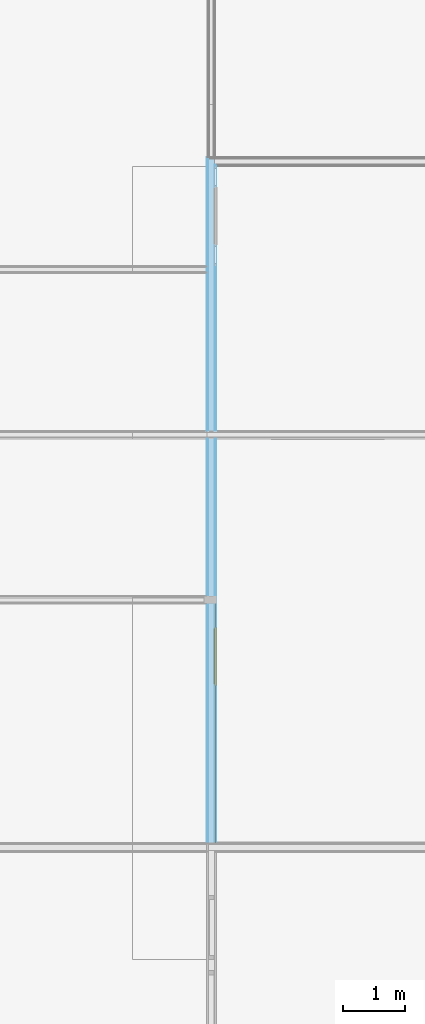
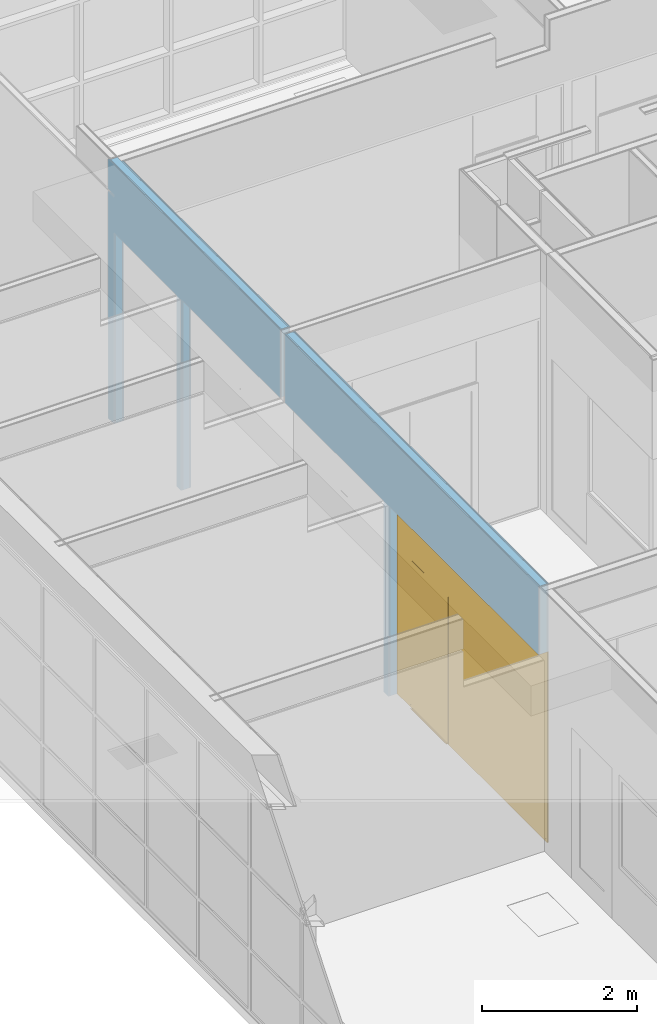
# One storey, part 40 of 109: 1 door, 4 openings, 1 element without a shape of its own, plus 5 elements that do not belong to this part.
"""IFC2X3 building model written with IfcOpenShell, lengths in millimetres."""

from ifc_helpers import new_model, entity, si_unit, converted_unit, derived_unit, money_unit, direction, frame, origin_with_axes, place, context, subcontext, project, spatial, open_shell, faceted_brep, surface_model, material, type_object, element, fill, aggregate, save


model = new_model("IFC2X3")

# Units and contexts
model_context = context("Model", 3, precision=0.01, world=origin_with_axes(), true_north=direction((0.0, 1.0)))
body_context = subcontext(model_context, "Body", "Model", "MODEL_VIEW")
ifc_project = project(units=[si_unit("LENGTHUNIT", "METRE", prefix="MILLI"), si_unit("AREAUNIT", "SQUARE_METRE"), si_unit("VOLUMEUNIT", "CUBIC_METRE"), converted_unit("PLANEANGLEUNIT", "DEGREE", entity("IfcPlaneAngleMeasure", 0.0174532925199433), si_unit("PLANEANGLEUNIT", "RADIAN"), dimensions=[0, 0, 0, 0, 0, 0, 0]), money_unit("EUR"), converted_unit("TIMEUNIT", "Year", entity("IfcTimeMeasure", 31557600.0), si_unit("TIMEUNIT", "SECOND"), dimensions=[0, 0, 1, 0, 0, 0, 0]), si_unit("MASSUNIT", "GRAM", prefix="KILO"), si_unit("THERMODYNAMICTEMPERATUREUNIT", "DEGREE_CELSIUS"), si_unit("LUMINOUSINTENSITYUNIT", "LUMEN"), si_unit("ENERGYUNIT", "JOULE", prefix="MEGA"), derived_unit("THERMALCONDUCTANCEUNIT", [(si_unit("POWERUNIT", "WATT"), 1), (si_unit("LENGTHUNIT", "METRE"), -1), (si_unit("THERMODYNAMICTEMPERATUREUNIT", "KELVIN"), -1)]), derived_unit("SPECIFICHEATCAPACITYUNIT", [(si_unit("ENERGYUNIT", "JOULE"), 1), (si_unit("MASSUNIT", "GRAM", prefix="KILO"), -1), (si_unit("THERMODYNAMICTEMPERATUREUNIT", "KELVIN"), -1)]), derived_unit("MASSDENSITYUNIT", [(si_unit("MASSUNIT", "GRAM", prefix="KILO"), 1), (si_unit("VOLUMEUNIT", "CUBIC_METRE"), -1)])], contexts=[model_context])

# Site, building, storey
site_placement = place(None, origin_with_axes())
site = spatial("IfcSite", under=ifc_project, at=site_placement, Name="<site naam>", CompositionType="ELEMENT")
building_placement = place(site_placement, origin_with_axes())
building = spatial("IfcBuilding", under=site, at=building_placement, Name="<Naam gebouw>", CompositionType="ELEMENT")
storey_placement = place(building_placement, origin_with_axes())
storey = spatial("IfcBuildingStorey", under=building, at=storey_placement, Name="00 Begane grond", CompositionType="ELEMENT", Elevation=0.0)

# Door
door_style = type_object("IfcDoorStyle", Name="D1 bl zl2 27", ConstructionType="NOTDEFINED", OperationType="USERDEFINED", ParameterTakesPrecedence=False, Sizeable=False)
wall_placement = place(storey_placement, frame((-3999.999999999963, 8075.000000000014, 0.0), z_axis=(0.0, 0.0, 1.0), x_axis=(0.0, 1.0, 0.0)))
opening_3_placement = place(wall_placement, frame((1931.25, 0.0, 0.0), z_axis=(0.0, 0.0, 1.0), x_axis=(1.0, 0.0, 0.0)))
door_placement = place(opening_3_placement, frame((1931.25, 0.0, 0.0), z_axis=(0.0, 0.0, 1.0), x_axis=(-1.0, 0.0, 0.0)))
door = element("IfcDoor", 1, at=door_placement, inside=storey, type_object=door_style, Name="22_BI-F-01_305", ObjectType="DOOR", OverallHeight=3000.0, OverallWidth=3862.5, context=body_context, shape_type="SurfaceModel", body=[
    faceted_brep([(1317.0, 35.00000000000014, 0.0), (1300.000000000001, 35.00000000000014, 0.0), (1300.000000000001, 35.00000000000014, 12.0), (1317.0, 35.00000000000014, 12.0), (383.0000000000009, 35.00000000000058, 0.0), (400.0000000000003, 35.00000000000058, 0.0), (400.0000000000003, 55.0000000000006, 0.0), (1300.000000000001, 55.00000000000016, 0.0), (1300.000000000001, 55.00000000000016, 12.0), (400.0000000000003, 55.0000000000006, 12.0), (400.0000000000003, 35.00000000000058, 12.0), (383.0000000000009, 35.00000000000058, 12.0)], [[[0, 1, 2, 3]], [[0, 4, 5, 6, 7, 1]], [[1, 7, 8, 2]], [[3, 2, 8, 9, 10, 11]], [[4, 0, 3, 11]], [[5, 4, 11, 10]], [[6, 5, 10, 9]], [[7, 6, 9, 8]]]),
    faceted_brep([(3862.500000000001, 74.99999999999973, 0.0), (3862.500000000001, 54.99999999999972, 0.0), (3829.5, 54.99999999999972, 0.0), (3829.5, 74.99999999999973, 0.0), (3862.500000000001, 74.99999999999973, 2967.0), (3862.500000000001, 54.99999999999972, 2967.0), (3829.5, 54.99999999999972, 2967.0), (3829.5, 54.99999999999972, 33.0), (3829.5, 74.99999999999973, 33.0), (3829.5, 74.99999999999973, 2967.0)], [[[0, 1, 2, 3]], [[4, 5, 1, 0]], [[1, 5, 6, 7, 2]], [[3, 2, 7, 8]], [[0, 3, 8, 9, 4]], [[9, 6, 5, 4]], [[8, 7, 6, 9]]]),
    faceted_brep([(1317.0, 55.00000000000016, 0.0), (1342.0, 55.00000000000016, 0.0), (1342.0, 55.00000000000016, 32.99999999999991), (1342.0, 55.00000000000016, 2967.0), (1300.000000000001, 55.00000000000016, 2967.0), (1300.000000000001, 55.00000000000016, 2333.0), (1300.000000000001, 55.00000000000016, 2317.0), (1317.0, 55.00000000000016, 2317.0), (1317.0, 75.00000000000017, 0.0), (1342.0, 75.00000000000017, 0.0), (1342.0, 75.00000000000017, 32.99999999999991), (1342.0, 75.00000000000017, 2967.0), (1300.000000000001, 75.00000000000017, 2967.0), (1300.000000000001, 75.00000000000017, 2333.0), (1300.000000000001, 75.00000000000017, 2317.0), (1317.0, 75.00000000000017, 2317.0)], [[[0, 1, 2, 3, 4, 5, 6, 7]], [[8, 9, 1, 0]], [[9, 10, 2, 1]], [[10, 11, 3, 2]], [[11, 12, 4, 3]], [[12, 13, 5, 4]], [[6, 5, 13, 14]], [[14, 15, 7, 6]], [[7, 15, 8, 0]], [[15, 14, 13, 12, 11, 10, 9, 8]]]),
    faceted_brep([(3829.5, 74.99999999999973, 33.0), (3829.5, 54.99999999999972, 33.0), (3829.5, 54.99999999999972, 0.0), (3829.5, 74.99999999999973, 0.0), (1342.0, 75.00000000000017, 33.0), (1342.0, 55.00000000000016, 33.0), (1342.0, 55.00000000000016, 0.0), (1342.0, 75.00000000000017, 0.0)], [[[0, 1, 2, 3]], [[4, 5, 1, 0]], [[1, 5, 6, 2]], [[3, 2, 6, 7]], [[0, 3, 7, 4]], [[7, 6, 5, 4]]]),
    faceted_brep([(0.0, 75.00000000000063, 0.0), (0.0, 55.0000000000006, 0.0), (0.0, 55.00000000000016, 2967.0), (0.0, 75.00000000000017, 2967.0), (33.00000000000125, 75.00000000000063, 0.0), (33.00000000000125, 55.0000000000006, 0.0), (33.00000000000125, 55.0000000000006, 33.0), (33.00000000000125, 55.00000000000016, 2967.0), (33.00000000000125, 75.00000000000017, 2967.0), (33.00000000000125, 75.00000000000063, 33.0)], [[[0, 1, 2, 3]], [[4, 5, 1, 0]], [[1, 5, 6, 7, 2]], [[3, 2, 7, 8]], [[0, 3, 8, 9, 4]], [[9, 6, 5, 4]], [[8, 7, 6, 9]]]),
    faceted_brep([(383.0000000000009, 55.00000000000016, 2317.0), (400.0000000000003, 55.00000000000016, 2317.0), (400.0000000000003, 55.00000000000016, 2333.0), (400.0000000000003, 55.00000000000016, 2967.0), (358.0000000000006, 55.00000000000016, 2967.0), (358.0000000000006, 55.0000000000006, 32.99999999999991), (358.0000000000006, 55.0000000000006, 0.0), (383.0000000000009, 55.0000000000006, 0.0), (383.0000000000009, 75.00000000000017, 2317.0), (400.0000000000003, 75.00000000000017, 2317.0), (400.0000000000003, 75.00000000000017, 2333.0), (400.0000000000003, 75.00000000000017, 2967.0), (358.0000000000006, 75.00000000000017, 2967.0), (358.0000000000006, 75.00000000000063, 32.99999999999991), (358.0000000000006, 75.00000000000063, 0.0), (383.0000000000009, 75.00000000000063, 0.0)], [[[0, 1, 2, 3, 4, 5, 6, 7]], [[0, 8, 9, 1]], [[9, 10, 2, 1]], [[10, 11, 3, 2]], [[11, 12, 4, 3]], [[12, 13, 5, 4]], [[13, 14, 6, 5]], [[7, 6, 14, 15]], [[7, 15, 8, 0]], [[8, 15, 14, 13, 12, 11, 10, 9]]]),
    faceted_brep([(358.0000000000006, 75.00000000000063, 33.0), (358.0000000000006, 55.0000000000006, 33.0), (358.0000000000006, 55.0000000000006, 0.0), (358.0000000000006, 75.00000000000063, 0.0), (33.00000000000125, 75.00000000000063, 33.0), (33.00000000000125, 55.0000000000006, 33.0), (33.00000000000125, 55.0000000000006, 0.0), (33.00000000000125, 75.00000000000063, 0.0)], [[[0, 1, 2, 3]], [[4, 5, 1, 0]], [[1, 5, 6, 2]], [[3, 2, 6, 7]], [[0, 3, 7, 4]], [[7, 6, 5, 4]]]),
    faceted_brep([(3862.500000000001, 74.99999999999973, 3000.0), (3862.500000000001, 54.99999999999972, 3000.0), (3862.500000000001, 54.99999999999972, 2967.0), (3862.500000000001, 74.99999999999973, 2967.0), (0.0, 75.00000000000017, 3000.0), (0.0, 55.00000000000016, 3000.0), (0.0, 55.00000000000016, 2967.0), (33.00000000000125, 55.00000000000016, 2967.0), (358.0000000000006, 55.00000000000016, 2967.0), (400.0000000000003, 55.00000000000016, 2967.0), (1300.000000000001, 55.00000000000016, 2967.0), (1342.0, 55.00000000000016, 2967.0), (3829.5, 54.99999999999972, 2967.0), (3829.5, 74.99999999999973, 2967.0), (1342.0, 75.00000000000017, 2967.0), (1300.000000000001, 75.00000000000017, 2967.0), (400.0000000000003, 75.00000000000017, 2967.0), (358.0000000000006, 75.00000000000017, 2967.0), (33.00000000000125, 75.00000000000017, 2967.0), (0.0, 75.00000000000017, 2967.0)], [[[0, 1, 2, 3]], [[4, 5, 1, 0]], [[1, 5, 6, 7, 8, 9, 10, 11, 12, 2]], [[3, 2, 12, 13]], [[0, 3, 13, 14, 15, 16, 17, 18, 19, 4]], [[19, 6, 5, 4]], [[18, 7, 6, 19]], [[17, 8, 7, 18]], [[16, 9, 8, 17]], [[15, 10, 9, 16]], [[14, 11, 10, 15]], [[13, 12, 11, 14]]]),
    faceted_brep([(1300.000000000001, 55.00000000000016, 2317.0), (1300.000000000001, 55.00000000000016, 2333.0), (400.0000000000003, 55.00000000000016, 2333.0), (400.0000000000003, 55.00000000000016, 2317.0), (1300.000000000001, 75.00000000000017, 2317.0), (1300.000000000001, 75.00000000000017, 2333.0), (400.0000000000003, 75.00000000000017, 2333.0), (400.0000000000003, 75.00000000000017, 2317.0)], [[[0, 1, 2, 3]], [[4, 5, 1, 0]], [[5, 6, 2, 1]], [[3, 2, 6, 7]], [[7, 4, 0, 3]], [[7, 6, 5, 4]]]),
    faceted_brep([(383.0000000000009, 93.00000000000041, 0.0), (1317.0, 93.00000000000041, 0.0), (1317.0, 53.00000000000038, 0.0), (383.0000000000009, 53.00000000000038, 0.0), (383.0000000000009, 92.99999999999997, 2317.0), (1317.0, 92.99999999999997, 2317.0), (1317.0, 52.99999999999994, 2317.0), (383.0000000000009, 53.00000000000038, 2317.0)], [[[0, 1, 2, 3]], [[0, 4, 5, 1]], [[1, 5, 6, 2]], [[3, 2, 6, 7]], [[4, 0, 3, 7]], [[5, 4, 7, 6]]]),
    surface_model("IfcShellBasedSurfaceModel", [(1300.000000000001, 48.99999999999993, 2333.0), (1300.000000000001, 48.99999999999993, 2967.0), (400.0000000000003, 49.00000000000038, 2967.0), (400.0000000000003, 49.00000000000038, 2333.0)], [open_shell([[[0, 1, 2, 3]]])]),
    surface_model("IfcShellBasedSurfaceModel", [(1300.000000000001, 60.99999999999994, 2333.0), (400.0000000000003, 61.00000000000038, 2333.0), (400.0000000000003, 61.00000000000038, 2967.0), (1300.000000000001, 60.99999999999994, 2967.0)], [open_shell([[[0, 1, 2, 3]]])]),
    surface_model("IfcShellBasedSurfaceModel", [(3829.5, 48.99999999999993, 33.0), (3829.5, 48.99999999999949, 2967.0), (1342.0, 48.99999999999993, 2967.0), (1342.0, 49.00000000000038, 33.0)], [open_shell([[[0, 1, 2, 3]]])]),
    surface_model("IfcShellBasedSurfaceModel", [(3829.5, 60.99999999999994, 33.0), (1342.0, 61.00000000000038, 33.0), (1342.0, 60.99999999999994, 2967.0), (3829.5, 60.9999999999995, 2967.0)], [open_shell([[[0, 1, 2, 3]]])]),
    surface_model("IfcShellBasedSurfaceModel", [(358.0000000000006, 49.00000000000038, 33.0), (358.0000000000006, 49.00000000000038, 2967.0), (33.00000000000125, 49.00000000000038, 2967.0), (33.00000000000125, 49.00000000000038, 33.0)], [open_shell([[[0, 1, 2, 3]]])]),
    surface_model("IfcShellBasedSurfaceModel", [(358.0000000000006, 61.00000000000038, 33.0), (33.00000000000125, 61.00000000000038, 33.0), (33.00000000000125, 61.00000000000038, 2967.0), (358.0000000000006, 61.00000000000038, 2967.0)], [open_shell([[[0, 1, 2, 3]]])]),
])

# Wall, openings
wall_type = type_object("IfcWallType", Name="MS-01 GF 150 ECO DGS/2.100.2.A 150", PredefinedType="NOTDEFINED")
wall = element("IfcWall", 2, at=wall_placement, inside=storey, type_object=wall_type, Name="22_Binnenwand_MS-01")
opening_1_placement = place(wall_placement, frame((5258.333333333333, 0.0, 0.0), z_axis=(0.0, 0.0, 1.0), x_axis=(1.0, 0.0, 0.0)))
element("IfcOpeningElement", 3, at=opening_1_placement, cuts=wall, Name="22_BI-F-02 sp_305", context=body_context, shape_type="Brep", body=[
    faceted_brep([(1270.833333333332, 76.00000000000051, 3000.0), (1270.833333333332, 76.00000000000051, 0.0), (-1270.833333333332, 76.00000000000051, 0.0), (-1270.833333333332, 76.00000000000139, 3000.0), (1270.833333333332, -76.00000000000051, 3000.0), (1270.833333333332, -76.00000000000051, 0.0), (-1270.833333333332, -76.00000000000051, 0.0), (-1270.833333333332, -75.99999999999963, 3000.0)], [[[0, 1, 2, 3]], [[4, 5, 1, 0]], [[5, 6, 2, 1]], [[6, 7, 3, 2]], [[7, 4, 0, 3]], [[6, 5, 4, 7]]]),
])
opening_2_placement = place(wall_placement, frame((7925.000000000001, 0.0, 0.0), z_axis=(0.0, 0.0, 1.0), x_axis=(1.0, 0.0, 0.0)))
element("IfcOpeningElement", 4, at=opening_2_placement, cuts=wall, Name="22_BI-F-02_305", context=body_context, shape_type="Brep", body=[
    faceted_brep([(1270.833333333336, 76.00000000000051, 3000.0), (1270.833333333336, 76.00000000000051, 0.0), (-1270.833333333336, 76.00000000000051, 0.0), (-1270.833333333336, 76.00000000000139, 3000.0), (1270.833333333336, -76.00000000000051, 3000.0), (1270.833333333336, -76.00000000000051, 0.0), (-1270.833333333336, -76.00000000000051, 0.0), (-1270.833333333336, -75.99999999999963, 3000.0)], [[[0, 1, 2, 3]], [[4, 5, 1, 0]], [[5, 6, 2, 1]], [[6, 7, 3, 2]], [[7, 4, 0, 3]], [[6, 5, 4, 7]]]),
])
opening_3 = element("IfcOpeningElement", 5, at=opening_3_placement, cuts=wall, Name="22_BI-F-01_305", context=body_context, shape_type="Brep", body=[
    faceted_brep([(1931.25, 76.00000000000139, 3000.0), (1931.25, 76.00000000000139, 0.0), (-1931.25, 76.00000000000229, 0.0), (-1931.25, 76.00000000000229, 3000.0), (1931.25, -76.00000000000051, 3000.0), (1931.25, -76.00000000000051, 0.0), (-1931.25, -75.99999999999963, 0.0), (-1931.25, -75.99999999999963, 3000.0)], [[[0, 1, 2, 3]], [[4, 5, 1, 0]], [[5, 6, 2, 1]], [[6, 7, 3, 2]], [[7, 4, 0, 3]], [[6, 5, 4, 7]]]),
])

fill(opening_3, door)

# Opening
opening_4_placement = place(wall_placement, frame((10122.91666666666, 0.0, 0.0), z_axis=(0.0, 0.0, 1.0), x_axis=(1.0, 0.0, 0.0)))
element("IfcOpeningElement", 6, at=opening_4_placement, cuts=wall, Name="22_BI-F-03_305", context=body_context, shape_type="Brep", body=[
    faceted_brep([(802.0833333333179, 76.00000000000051, 3000.0), (802.0833333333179, 76.00000000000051, 0.0), (-802.0833333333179, 76.00000000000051, 0.0), (-802.0833333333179, 76.00000000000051, 3000.0), (802.0833333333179, -76.00000000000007, 3000.0), (802.0833333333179, -76.00000000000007, 0.0), (-802.0833333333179, -76.00000000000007, 0.0), (-802.0833333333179, -76.00000000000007, 3000.0)], [[[0, 1, 2, 3]], [[4, 5, 1, 0]], [[5, 6, 2, 1]], [[6, 7, 3, 2]], [[7, 4, 0, 3]], [[6, 5, 4, 7]]]),
])

# Building element part
ifc_material_1 = material(Name="gipsplaat")
building_element_part_1_placement = place(wall_placement, origin_with_axes())
building_element_part_1 = element("IfcBuildingElementPart", 7, at=building_element_part_1_placement, material=ifc_material_1, Name="gipsplaat", context=body_context, shape_type="Brep", body=[
    faceted_brep([(11062.49999999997, 49.99999999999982, 3560.0), (10925.0000001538, 49.99999999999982, 3560.0), (10925.0000001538, 49.99999999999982, 3600.0), (11062.49999999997, 49.99999999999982, 3600.0), (11062.49999999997, 49.99999999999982, 4070.0), (6654.166666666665, 49.99999999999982, 4070.0), (6654.166666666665, 49.99999999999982, 3.000000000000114), (9195.833333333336, 49.99999999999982, 3.000000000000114), (9195.833333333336, 49.99999999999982, 0.0), (9320.833333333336, 49.99999999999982, 0.0), (9320.833333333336, 49.99999999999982, 3.000000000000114), (10925.00004530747, 49.99999999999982, 3.000000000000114), (10925.00004530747, 49.99999999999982, 0.0), (11062.49999999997, 49.99999999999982, 0.0), (10925.00000013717, 62.5, 3560.0), (11062.49999999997, 62.5, 3560.0), (10925.00000013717, 62.5, 3600.0), (11062.49999999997, 62.5, 3600.0), (11062.49999999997, 62.5, 4070.0), (6654.166666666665, 62.5, 4070.0), (6654.166666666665, 62.5, 3.000000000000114), (9195.833333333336, 62.5, 3.000000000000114), (9195.833333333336, 62.5, 0.0), (9320.833333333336, 62.5, 0.0), (9320.833333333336, 62.5, 3.000000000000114), (10925.00004530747, 62.5, 3.000000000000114), (10925.00004530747, 62.5, 0.0), (11062.49999999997, 62.5, 0.0)], [[[0, 1, 2, 3, 4, 5, 6, 7, 8, 9, 10, 11, 12, 13]], [[14, 1, 0, 15]], [[16, 2, 1, 14]], [[16, 17, 3, 2]], [[4, 3, 17, 18]], [[5, 4, 18, 19]], [[19, 20, 6, 5]], [[21, 7, 6, 20]], [[22, 8, 7, 21]], [[22, 23, 9, 8]], [[24, 10, 9, 23]], [[25, 11, 10, 24]], [[26, 12, 11, 25]], [[13, 12, 26, 27]], [[27, 15, 0, 13]], [[16, 14, 15, 27, 26, 25, 24, 23, 22, 21, 20, 19, 18, 17]]]),
    faceted_brep([(0.0, 49.99999999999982, 3.000000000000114), (3862.500000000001, 49.99999999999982, 3.000000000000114), (3862.500000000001, 49.99999999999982, 0.0), (3987.500000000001, 49.99999999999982, 0.0), (3987.500000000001, 49.99999999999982, 3.000000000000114), (6529.166666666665, 49.99999999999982, 3.000000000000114), (6529.166666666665, 49.99999999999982, 4070.0), (0.0, 49.99999999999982, 4070.0), (3862.500000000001, 62.5, 3.000000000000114), (0.0, 62.5, 3.000000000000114), (3862.500000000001, 62.5, 0.0), (3987.500000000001, 62.5, 0.0), (3987.500000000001, 62.5, 3.000000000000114), (6529.166666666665, 62.5, 3.000000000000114), (6529.166666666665, 62.5, 4070.0), (0.0, 62.5, 4070.0)], [[[0, 1, 2, 3, 4, 5, 6, 7]], [[8, 1, 0, 9]], [[10, 2, 1, 8]], [[3, 2, 10, 11]], [[12, 4, 3, 11]], [[12, 13, 5, 4]], [[6, 5, 13, 14]], [[7, 6, 14, 15]], [[15, 9, 0, 7]], [[10, 8, 9, 15, 14, 13, 12, 11]]]),
])

building_element_part_2_placement = place(wall_placement, origin_with_axes())
building_element_part_2 = element("IfcBuildingElementPart", 8, at=building_element_part_2_placement, material=ifc_material_1, Name="gipsplaat", context=body_context, shape_type="Brep", body=[
    faceted_brep([(10949.99999999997, -62.5, 3560.0), (10925.00000030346, -62.5, 3560.0), (10925.00000030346, -62.5, 3600.0), (10949.99999999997, -62.5, 3600.0), (10949.99999999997, -62.5, 4070.0), (6654.166666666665, -62.5, 4070.0), (6654.166666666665, -62.5, 3.000000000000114), (9195.833333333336, -62.5, 3.000000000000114), (9195.833333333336, -62.5, 0.0), (9320.833333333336, -62.5, 0.0), (9320.833333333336, -62.5, 3.000000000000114), (10925.00004530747, -62.5, 3.000000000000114), (10925.00004530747, -62.5, 0.0), (10949.99999999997, -62.5, 0.0), (10925.00000028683, -49.99999999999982, 3560.0), (10949.99999999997, -49.99999999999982, 3560.0), (10925.00000028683, -49.99999999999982, 3600.0), (10949.99999999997, -49.99999999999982, 3600.0), (10949.99999999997, -49.99999999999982, 4070.0), (6654.166666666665, -49.99999999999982, 4070.0), (6654.166666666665, -49.99999999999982, 3.000000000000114), (9195.833333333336, -49.99999999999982, 3.000000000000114), (9195.833333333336, -49.99999999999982, 0.0), (9320.833333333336, -49.99999999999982, 0.0), (9320.833333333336, -49.99999999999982, 3.000000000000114), (10925.00004530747, -49.99999999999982, 3.000000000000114), (10925.00004530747, -49.99999999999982, 0.0), (10949.99999999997, -49.99999999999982, 0.0)], [[[0, 1, 2, 3, 4, 5, 6, 7, 8, 9, 10, 11, 12, 13]], [[14, 1, 0, 15]], [[16, 2, 1, 14]], [[16, 17, 3, 2]], [[4, 3, 17, 18]], [[5, 4, 18, 19]], [[19, 20, 6, 5]], [[21, 7, 6, 20]], [[22, 8, 7, 21]], [[22, 23, 9, 8]], [[24, 10, 9, 23]], [[25, 11, 10, 24]], [[26, 12, 11, 25]], [[13, 12, 26, 27]], [[27, 15, 0, 13]], [[16, 14, 15, 27, 26, 25, 24, 23, 22, 21, 20, 19, 18, 17]]]),
    faceted_brep([(0.0, -62.5, 3.000000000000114), (3862.500000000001, -62.5, 3.000000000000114), (3862.500000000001, -62.5, 0.0), (3987.500000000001, -62.5, 0.0), (3987.500000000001, -62.5, 3.000000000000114), (6529.166666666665, -62.5, 3.000000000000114), (6529.166666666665, -62.5, 4070.0), (0.0, -62.5, 4070.0), (3862.500000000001, -49.99999999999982, 3.000000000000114), (0.0, -49.99999999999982, 3.000000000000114), (3862.500000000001, -49.99999999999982, 0.0), (3987.500000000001, -49.99999999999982, 0.0), (3987.500000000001, -49.99999999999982, 3.000000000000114), (6529.166666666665, -49.99999999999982, 3.000000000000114), (6529.166666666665, -49.99999999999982, 4070.0), (0.0, -49.99999999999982, 4070.0)], [[[0, 1, 2, 3, 4, 5, 6, 7]], [[8, 1, 0, 9]], [[10, 2, 1, 8]], [[3, 2, 10, 11]], [[12, 4, 3, 11]], [[12, 13, 5, 4]], [[6, 5, 13, 14]], [[7, 6, 14, 15]], [[15, 9, 0, 7]], [[10, 8, 9, 15, 14, 13, 12, 11]]]),
])

ifc_material_2 = material(Name="isolatie_steenwol LSW")
building_element_part_3_placement = place(wall_placement, origin_with_axes())
building_element_part_3 = element("IfcBuildingElementPart", 9, at=building_element_part_3_placement, material=ifc_material_2, Name="isolatie_steenwol LSW", context=body_context, shape_type="Brep", body=[
    faceted_brep([(11049.99999999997, -49.99999999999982, 3560.0), (10925.00000028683, -49.99999999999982, 3560.0), (10925.00000028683, -49.99999999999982, 3600.0), (11049.99999999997, -49.99999999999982, 3600.0), (11049.99999999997, -49.99999999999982, 4070.0), (6654.166666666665, -49.99999999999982, 4070.0), (6654.166666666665, -49.99999999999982, 3.000000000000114), (9195.833333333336, -49.99999999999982, 3.000000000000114), (9195.833333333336, -49.99999999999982, 0.0), (9320.833333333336, -49.99999999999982, 0.0), (9320.833333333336, -49.99999999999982, 3.000000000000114), (10925.00004530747, -49.99999999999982, 3.000000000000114), (10925.00004530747, -49.99999999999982, 0.0), (11049.99999999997, -49.99999999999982, 0.0), (10925.0000001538, 49.99999999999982, 3560.0), (11049.99999999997, 49.99999999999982, 3560.0), (10925.0000001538, 49.99999999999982, 3600.0), (11049.99999999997, 49.99999999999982, 3600.0), (11049.99999999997, 49.99999999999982, 4070.0), (6654.166666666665, 49.99999999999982, 4070.0), (6654.166666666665, 49.99999999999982, 3.000000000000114), (9195.833333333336, 49.99999999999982, 3.000000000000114), (9195.833333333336, 49.99999999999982, 0.0), (9320.833333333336, 49.99999999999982, 0.0), (9320.833333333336, 49.99999999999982, 3.000000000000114), (10925.00004530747, 49.99999999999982, 3.000000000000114), (10925.00004530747, 49.99999999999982, 0.0), (11049.99999999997, 49.99999999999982, 0.0)], [[[0, 1, 2, 3, 4, 5, 6, 7, 8, 9, 10, 11, 12, 13]], [[14, 1, 0, 15]], [[16, 2, 1, 14]], [[16, 17, 3, 2]], [[4, 3, 17, 18]], [[5, 4, 18, 19]], [[19, 20, 6, 5]], [[21, 7, 6, 20]], [[22, 8, 7, 21]], [[22, 23, 9, 8]], [[24, 10, 9, 23]], [[25, 11, 10, 24]], [[26, 12, 11, 25]], [[13, 12, 26, 27]], [[27, 15, 0, 13]], [[16, 14, 15, 27, 26, 25, 24, 23, 22, 21, 20, 19, 18, 17]]]),
    faceted_brep([(0.0, -49.99999999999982, 3.000000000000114), (3862.500000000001, -49.99999999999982, 3.000000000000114), (3862.500000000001, -49.99999999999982, 0.0), (3987.500000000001, -49.99999999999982, 0.0), (3987.500000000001, -49.99999999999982, 3.000000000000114), (6529.166666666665, -49.99999999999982, 3.000000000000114), (6529.166666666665, -49.99999999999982, 4070.0), (0.0, -49.99999999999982, 4070.0), (3862.500000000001, 49.99999999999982, 3.000000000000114), (0.0, 49.99999999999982, 3.000000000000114), (3862.500000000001, 49.99999999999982, 0.0), (3987.500000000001, 49.99999999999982, 0.0), (3987.500000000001, 49.99999999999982, 3.000000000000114), (6529.166666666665, 49.99999999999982, 3.000000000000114), (6529.166666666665, 49.99999999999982, 4070.0), (0.0, 49.99999999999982, 4070.0)], [[[0, 1, 2, 3, 4, 5, 6, 7]], [[8, 1, 0, 9]], [[10, 2, 1, 8]], [[3, 2, 10, 11]], [[12, 4, 3, 11]], [[12, 13, 5, 4]], [[6, 5, 13, 14]], [[7, 6, 14, 15]], [[15, 9, 0, 7]], [[10, 8, 9, 15, 14, 13, 12, 11]]]),
])

building_element_part_4_placement = place(wall_placement, origin_with_axes())
building_element_part_4 = element("IfcBuildingElementPart", 10, at=building_element_part_4_placement, material=ifc_material_1, Name="gipsplaat", context=body_context, shape_type="Brep", body=[
    faceted_brep([(10937.49999999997, -75.00000000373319, 3560.0), (10925.00000032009, -75.00000002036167, 3560.0), (10925.00000032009, -75.00000002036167, 3600.0), (10937.49999999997, -75.00000000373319, 3600.0), (10937.49999999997, -74.99999999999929, 4070.0), (6654.166666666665, -74.99999999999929, 4070.0), (6654.166666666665, -74.99999999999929, 3.000000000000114), (9195.833333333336, -74.99999999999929, 3.000000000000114), (9195.833333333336, -74.99999999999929, 0.0), (9320.833333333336, -75.00000535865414, 0.0), (9320.833333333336, -75.00000535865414, 3.000000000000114), (10925.00004530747, -75.00000535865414, 3.000000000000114), (10925.00004530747, -75.00000535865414, 0.0), (10925.01546946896, -75.00000000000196, 0.0), (10925.01546946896, -74.99999999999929, 3.000000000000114), (10937.49999999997, -75.00000000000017, 3.000000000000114), (10925.00000030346, -62.5, 3560.0), (10937.49999999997, -62.5, 3560.0), (10925.00000030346, -62.5, 3600.0), (10937.49999999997, -62.5, 3600.0), (10937.49999999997, -62.5, 4070.0), (6654.166666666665, -62.5, 4070.0), (6654.166666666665, -62.5, 3.000000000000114), (9195.833333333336, -62.5, 3.000000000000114), (9195.833333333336, -62.5, 0.0), (9320.833333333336, -62.50000000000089, 0.0), (9320.833333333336, -62.5, 3.000000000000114), (10925.00004530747, -62.5, 3.000000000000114), (10925.00004530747, -62.50000000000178, 0.0), (10925.01549908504, -62.50000000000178, 0.0), (10925.01549908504, -62.50000000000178, 3.000000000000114), (10937.49999999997, -62.50000000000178, 3.000000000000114)], [[[0, 1, 2, 3, 4, 5, 6, 7, 8, 9, 10, 11, 12, 13, 14, 15]], [[16, 1, 0, 17]], [[18, 2, 1, 16]], [[18, 19, 3, 2]], [[4, 3, 19, 20]], [[5, 4, 20, 21]], [[21, 22, 6, 5]], [[23, 7, 6, 22]], [[24, 8, 7, 23]], [[24, 25, 9, 8]], [[26, 10, 9, 25]], [[27, 11, 10, 26]], [[28, 12, 11, 27]], [[13, 12, 28, 29]], [[30, 14, 13, 29]], [[30, 31, 15, 14]], [[31, 17, 0, 15]], [[18, 16, 17, 31, 30, 29, 28, 27, 26, 25, 24, 23, 22, 21, 20, 19]]]),
    faceted_brep([(0.0, -74.99999999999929, 3.000000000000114), (3862.500000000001, -74.99999999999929, 3.000000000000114), (3862.500000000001, -74.99999999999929, 0.0), (3987.500000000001, -74.99999999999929, 0.0), (3987.500000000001, -74.99999999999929, 3.000000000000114), (6529.166666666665, -74.99999999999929, 3.000000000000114), (6529.166666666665, -74.99999999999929, 4070.0), (0.0, -74.99999999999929, 4070.0), (3862.500000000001, -62.5, 3.000000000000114), (0.0, -62.5, 3.000000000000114), (3862.500000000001, -62.5, 0.0), (3987.500000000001, -62.5, 0.0), (3987.500000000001, -62.5, 3.000000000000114), (6529.166666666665, -62.5, 3.000000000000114), (6529.166666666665, -62.5, 4070.0), (0.0, -62.5, 4070.0)], [[[0, 1, 2, 3, 4, 5, 6, 7]], [[8, 1, 0, 9]], [[10, 2, 1, 8]], [[3, 2, 10, 11]], [[12, 4, 3, 11]], [[12, 13, 5, 4]], [[6, 5, 13, 14]], [[7, 6, 14, 15]], [[15, 9, 0, 7]], [[10, 8, 9, 15, 14, 13, 12, 11]]]),
])

building_element_part_5_placement = place(wall_placement, origin_with_axes())
building_element_part_5 = element("IfcBuildingElementPart", 11, at=building_element_part_5_placement, material=ifc_material_1, Name="gipsplaat", context=body_context, shape_type="Brep", body=[
    faceted_brep([(11074.99999999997, 62.5, 3560.0), (10925.00000013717, 62.5, 3560.0), (10925.00000013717, 62.5, 3600.0), (11074.99999999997, 62.5, 3600.0), (11074.99999999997, 62.5, 4070.0), (6654.166666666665, 62.5, 4070.0), (6654.166666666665, 62.5, 3.000000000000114), (9195.833333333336, 62.5, 3.000000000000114), (9195.833333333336, 62.5, 0.0), (9320.833333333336, 62.5, 0.0), (9320.833333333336, 62.5, 3.000000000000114), (10925.00004530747, 62.5, 3.000000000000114), (10925.00004530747, 62.5, 0.0), (11074.99999999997, 62.5, 0.0), (10925.00000012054, 75.00000000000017, 3560.0), (11074.99999999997, 75.00000000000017, 3560.0), (10925.00000012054, 75.00000000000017, 3600.0), (11074.99999999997, 75.00000000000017, 3600.0), (11074.99999999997, 75.00000000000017, 4070.0), (6654.166666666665, 75.00000000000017, 4070.0), (6654.166666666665, 75.00000000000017, 3.000000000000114), (9195.833333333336, 75.00000000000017, 3.000000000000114), (9195.833333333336, 75.00000000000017, 0.0), (9320.833333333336, 75.00000000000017, 0.0), (9320.833333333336, 75.00000000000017, 3.000000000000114), (10925.00004530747, 75.00000000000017, 3.000000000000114), (10925.00004530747, 75.00000000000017, 0.0), (11074.99999999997, 75.00000000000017, 0.0)], [[[0, 1, 2, 3, 4, 5, 6, 7, 8, 9, 10, 11, 12, 13]], [[14, 1, 0, 15]], [[16, 2, 1, 14]], [[16, 17, 3, 2]], [[4, 3, 17, 18]], [[19, 5, 4, 18]], [[19, 20, 6, 5]], [[21, 7, 6, 20]], [[22, 8, 7, 21]], [[22, 23, 9, 8]], [[24, 10, 9, 23]], [[25, 11, 10, 24]], [[26, 12, 11, 25]], [[13, 12, 26, 27]], [[27, 15, 0, 13]], [[16, 14, 15, 27, 26, 25, 24, 23, 22, 21, 20, 19, 18, 17]]]),
    faceted_brep([(0.0, 62.5, 3.000000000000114), (3862.500000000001, 62.5, 3.000000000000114), (3862.500000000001, 62.5, 0.0), (3987.500000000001, 62.5, 0.0), (3987.500000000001, 62.5, 3.000000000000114), (6529.166666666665, 62.5, 3.000000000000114), (6529.166666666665, 62.5, 4070.0), (0.0, 62.5, 4070.0), (3862.500000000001, 75.00000000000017, 3.000000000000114), (0.0, 75.00000000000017, 3.000000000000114), (3862.500000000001, 75.00000000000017, 0.0), (3987.500000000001, 75.00000000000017, 0.0), (3987.500000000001, 75.00000000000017, 3.000000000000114), (6529.166666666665, 75.00000000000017, 3.000000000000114), (6529.166666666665, 75.00000000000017, 4070.0), (0.0, 75.00000000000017, 4070.0)], [[[0, 1, 2, 3, 4, 5, 6, 7]], [[8, 1, 0, 9]], [[10, 2, 1, 8]], [[3, 2, 10, 11]], [[12, 4, 3, 11]], [[12, 13, 5, 4]], [[6, 5, 13, 14]], [[7, 6, 14, 15]], [[15, 9, 0, 7]], [[10, 8, 9, 15, 14, 13, 12, 11]]]),
])

aggregate(wall, [building_element_part_1, building_element_part_2, building_element_part_3, building_element_part_4, building_element_part_5])

save(model, "model.ifc")
